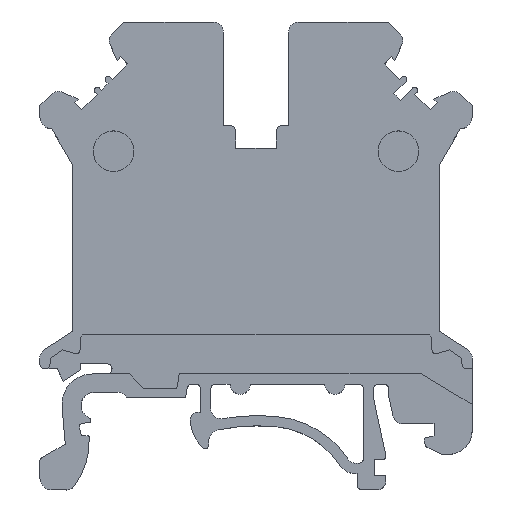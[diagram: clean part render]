
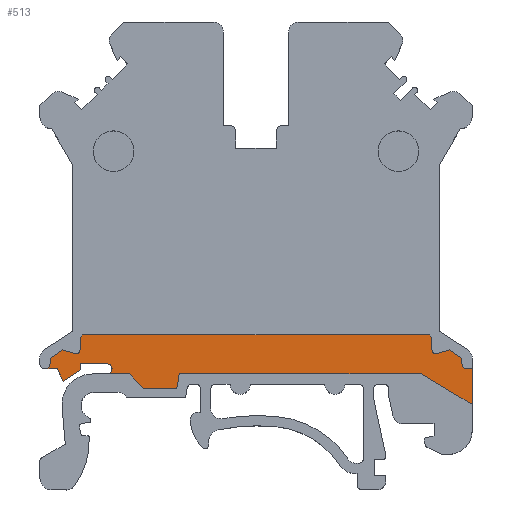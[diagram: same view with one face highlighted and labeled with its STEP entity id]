
A CAD part, top view. The second image highlights one B-rep face of the part: STEP entity #513.
In plain terms, the highlighted planar face has unit normal (0, 0, 1).
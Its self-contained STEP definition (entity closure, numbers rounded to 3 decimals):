
#216=CIRCLE('',#4229,0.5);
#318=CIRCLE('',#4349,0.5);
#323=CIRCLE('',#4498,0.4);
#324=CIRCLE('',#4505,0.4);
#325=CIRCLE('',#4510,0.5);
#513=ADVANCED_FACE('',(#852),#656,.T.);
#656=PLANE('',#4518);
#852=FACE_OUTER_BOUND('',#1068,.T.);
#1068=EDGE_LOOP('',(#2144,#2145,#2146,#2147,#2148,#2149,#2150,#2151,#2152,
#2153,#2154,#2155,#2156,#2157,#2158,#2159,#2160,#2161,#2162,#2163,#2164,
#2165,#2166,#2167,#2168,#2169,#2170,#2171,#2172));
#2144=ORIENTED_EDGE('',*,*,#2684,.F.);
#2145=ORIENTED_EDGE('',*,*,#2778,.F.);
#2146=ORIENTED_EDGE('',*,*,#3060,.F.);
#2147=ORIENTED_EDGE('',*,*,#3239,.T.);
#2148=ORIENTED_EDGE('',*,*,#3237,.T.);
#2149=ORIENTED_EDGE('',*,*,#3235,.T.);
#2150=ORIENTED_EDGE('',*,*,#3233,.T.);
#2151=ORIENTED_EDGE('',*,*,#3231,.T.);
#2152=ORIENTED_EDGE('',*,*,#2787,.F.);
#2153=ORIENTED_EDGE('',*,*,#3230,.T.);
#2154=ORIENTED_EDGE('',*,*,#3228,.T.);
#2155=ORIENTED_EDGE('',*,*,#3226,.T.);
#2156=ORIENTED_EDGE('',*,*,#3224,.T.);
#2157=ORIENTED_EDGE('',*,*,#3222,.T.);
#2158=ORIENTED_EDGE('',*,*,#3220,.T.);
#2159=ORIENTED_EDGE('',*,*,#3218,.T.);
#2160=ORIENTED_EDGE('',*,*,#3216,.T.);
#2161=ORIENTED_EDGE('',*,*,#3214,.T.);
#2162=ORIENTED_EDGE('',*,*,#3212,.T.);
#2163=ORIENTED_EDGE('',*,*,#3210,.T.);
#2164=ORIENTED_EDGE('',*,*,#3208,.T.);
#2165=ORIENTED_EDGE('',*,*,#3206,.T.);
#2166=ORIENTED_EDGE('',*,*,#3204,.T.);
#2167=ORIENTED_EDGE('',*,*,#3202,.T.);
#2168=ORIENTED_EDGE('',*,*,#3065,.F.);
#2169=ORIENTED_EDGE('',*,*,#2780,.F.);
#2170=ORIENTED_EDGE('',*,*,#2693,.F.);
#2171=ORIENTED_EDGE('',*,*,#2690,.F.);
#2172=ORIENTED_EDGE('',*,*,#2687,.F.);
#2284=VERTEX_POINT('',#5692);
#2285=VERTEX_POINT('',#5694);
#2287=VERTEX_POINT('',#5700);
#2289=VERTEX_POINT('',#5706);
#2291=VERTEX_POINT('',#5712);
#2374=VERTEX_POINT('',#5881);
#2376=VERTEX_POINT('',#5887);
#2381=VERTEX_POINT('',#5899);
#2382=VERTEX_POINT('',#5901);
#2638=VERTEX_POINT('',#6444);
#2641=VERTEX_POINT('',#6454);
#2646=VERTEX_POINT('',#6737);
#2647=VERTEX_POINT('',#6741);
#2648=VERTEX_POINT('',#6745);
#2649=VERTEX_POINT('',#6749);
#2650=VERTEX_POINT('',#6753);
#2651=VERTEX_POINT('',#6757);
#2652=VERTEX_POINT('',#6761);
#2653=VERTEX_POINT('',#6765);
#2654=VERTEX_POINT('',#6769);
#2655=VERTEX_POINT('',#6773);
#2656=VERTEX_POINT('',#6777);
#2657=VERTEX_POINT('',#6781);
#2658=VERTEX_POINT('',#6785);
#2659=VERTEX_POINT('',#6789);
#2660=VERTEX_POINT('',#6795);
#2661=VERTEX_POINT('',#6799);
#2662=VERTEX_POINT('',#6803);
#2663=VERTEX_POINT('',#6807);
#2684=EDGE_CURVE('',#2284,#2285,#3280,.T.);
#2687=EDGE_CURVE('',#2285,#2287,#3283,.T.);
#2690=EDGE_CURVE('',#2287,#2289,#3286,.T.);
#2693=EDGE_CURVE('',#2289,#2291,#3289,.T.);
#2778=EDGE_CURVE('',#2374,#2284,#216,.T.);
#2780=EDGE_CURVE('',#2291,#2376,#3354,.T.);
#2787=EDGE_CURVE('',#2381,#2382,#3361,.T.);
#3060=EDGE_CURVE('',#2638,#2374,#3534,.T.);
#3065=EDGE_CURVE('',#2376,#2641,#318,.T.);
#3202=EDGE_CURVE('',#2646,#2641,#3670,.T.);
#3204=EDGE_CURVE('',#2647,#2646,#3672,.T.);
#3206=EDGE_CURVE('',#2648,#2647,#3674,.T.);
#3208=EDGE_CURVE('',#2649,#2648,#323,.T.);
#3210=EDGE_CURVE('',#2650,#2649,#3677,.T.);
#3212=EDGE_CURVE('',#2651,#2650,#3679,.T.);
#3214=EDGE_CURVE('',#2652,#2651,#3681,.T.);
#3216=EDGE_CURVE('',#2653,#2652,#3683,.T.);
#3218=EDGE_CURVE('',#2654,#2653,#3685,.T.);
#3220=EDGE_CURVE('',#2655,#2654,#324,.T.);
#3222=EDGE_CURVE('',#2656,#2655,#3688,.T.);
#3224=EDGE_CURVE('',#2657,#2656,#3690,.T.);
#3226=EDGE_CURVE('',#2658,#2657,#3692,.T.);
#3228=EDGE_CURVE('',#2659,#2658,#325,.T.);
#3230=EDGE_CURVE('',#2381,#2659,#3695,.T.);
#3231=EDGE_CURVE('',#2660,#2382,#3696,.T.);
#3233=EDGE_CURVE('',#2661,#2660,#3698,.T.);
#3235=EDGE_CURVE('',#2662,#2661,#3700,.T.);
#3237=EDGE_CURVE('',#2663,#2662,#3702,.T.);
#3239=EDGE_CURVE('',#2638,#2663,#3704,.T.);
#3280=LINE('',#5693,#3742);
#3283=LINE('',#5699,#3745);
#3286=LINE('',#5705,#3748);
#3289=LINE('',#5711,#3751);
#3354=LINE('',#5886,#3816);
#3361=LINE('',#5900,#3823);
#3534=LINE('',#6445,#3996);
#3670=LINE('',#6736,#4132);
#3672=LINE('',#6740,#4134);
#3674=LINE('',#6744,#4136);
#3677=LINE('',#6752,#4139);
#3679=LINE('',#6756,#4141);
#3681=LINE('',#6760,#4143);
#3683=LINE('',#6764,#4145);
#3685=LINE('',#6768,#4147);
#3688=LINE('',#6776,#4150);
#3690=LINE('',#6780,#4152);
#3692=LINE('',#6784,#4154);
#3695=LINE('',#6792,#4157);
#3696=LINE('',#6794,#4158);
#3698=LINE('',#6798,#4160);
#3700=LINE('',#6802,#4162);
#3702=LINE('',#6806,#4164);
#3704=LINE('',#6810,#4166);
#3742=VECTOR('',#4547,1.);
#3745=VECTOR('',#4552,1.);
#3748=VECTOR('',#4557,1.);
#3751=VECTOR('',#4562,1.);
#3816=VECTOR('',#4677,1.);
#3823=VECTOR('',#4686,1.);
#3996=VECTOR('',#5089,1.);
#4132=VECTOR('',#5521,1.);
#4134=VECTOR('',#5525,1.);
#4136=VECTOR('',#5529,1.);
#4139=VECTOR('',#5538,1.);
#4141=VECTOR('',#5542,1.);
#4143=VECTOR('',#5546,1.);
#4145=VECTOR('',#5550,1.);
#4147=VECTOR('',#5554,1.);
#4150=VECTOR('',#5563,1.);
#4152=VECTOR('',#5567,1.);
#4154=VECTOR('',#5571,1.);
#4157=VECTOR('',#5580,1.);
#4158=VECTOR('',#5583,1.);
#4160=VECTOR('',#5587,1.);
#4162=VECTOR('',#5591,1.);
#4164=VECTOR('',#5595,1.);
#4166=VECTOR('',#5599,1.);
#4229=AXIS2_PLACEMENT_3D('',#5882,#4672,#4673);
#4349=AXIS2_PLACEMENT_3D('',#6453,#5097,#5098);
#4498=AXIS2_PLACEMENT_3D('',#6748,#5533,#5534);
#4505=AXIS2_PLACEMENT_3D('',#6772,#5558,#5559);
#4510=AXIS2_PLACEMENT_3D('',#6788,#5575,#5576);
#4518=AXIS2_PLACEMENT_3D('',#6812,#5602,#5603);
#4547=DIRECTION('',(-1.,0.,0.));
#4552=DIRECTION('',(0.,-1.,0.));
#4557=DIRECTION('',(-0.84,-0.543,0.));
#4562=DIRECTION('',(-0.447,0.894,0.));
#4672=DIRECTION('',(0.,0.,1.));
#4673=DIRECTION('',(1.,0.,0.));
#4677=DIRECTION('',(-1.,0.,0.));
#4686=DIRECTION('',(0.,-1.,0.));
#5089=DIRECTION('',(-1.,0.,0.));
#5097=DIRECTION('',(0.,0.,1.));
#5098=DIRECTION('',(1.,0.,0.));
#5521=DIRECTION('',(0.,-1.,0.));
#5525=DIRECTION('',(-0.84,-0.543,0.));
#5529=DIRECTION('',(-0.96,0.281,0.));
#5533=DIRECTION('',(0.,0.,-1.));
#5534=DIRECTION('',(1.,0.,0.));
#5538=DIRECTION('',(0.,-1.,0.));
#5542=DIRECTION('',(-0.768,-0.64,0.));
#5546=DIRECTION('',(-1.,0.,0.));
#5550=DIRECTION('',(-0.768,0.64,0.));
#5554=DIRECTION('',(0.,1.,0.));
#5558=DIRECTION('',(0.,0.,-1.));
#5559=DIRECTION('',(1.,0.,0.));
#5563=DIRECTION('',(-0.96,-0.281,0.));
#5567=DIRECTION('',(-0.84,0.543,0.));
#5571=DIRECTION('',(0.,1.,0.));
#5575=DIRECTION('',(0.,0.,-1.));
#5576=DIRECTION('',(1.,0.,0.));
#5580=DIRECTION('',(-1.,0.,0.));
#5583=DIRECTION('',(0.857,-0.514,0.));
#5587=DIRECTION('',(1.,0.,0.));
#5591=DIRECTION('',(0.174,0.985,0.));
#5595=DIRECTION('',(1.,0.,0.));
#5599=DIRECTION('',(0.695,-0.719,0.));
#5602=DIRECTION('',(0.,0.,1.));
#5603=DIRECTION('',(1.,0.,0.));
#5692=CARTESIAN_POINT('',(5.47,-26.48,3.8));
#5693=CARTESIAN_POINT('',(5.47,-26.48,3.8));
#5694=CARTESIAN_POINT('',(2.87,-26.48,3.8));
#5699=CARTESIAN_POINT('',(2.87,-26.48,3.8));
#5700=CARTESIAN_POINT('',(2.87,-27.08,3.8));
#5705=CARTESIAN_POINT('',(2.87,-27.08,3.8));
#5706=CARTESIAN_POINT('',(1.17,-28.18,3.8));
#5711=CARTESIAN_POINT('',(1.17,-28.18,3.8));
#5712=CARTESIAN_POINT('',(0.57,-26.98,3.8));
#5881=CARTESIAN_POINT('',(5.47,-27.48,3.8));
#5882=CARTESIAN_POINT('',(5.47,-26.98,3.8));
#5886=CARTESIAN_POINT('',(0.57,-26.98,3.8));
#5887=CARTESIAN_POINT('',(-0.63,-26.98,3.8));
#5899=CARTESIAN_POINT('',(41.37,-26.98,3.8));
#5900=CARTESIAN_POINT('',(41.37,-26.98,3.8));
#5901=CARTESIAN_POINT('',(41.37,-30.48,3.8));
#6444=CARTESIAN_POINT('',(7.681,-27.48,3.8));
#6445=CARTESIAN_POINT('',(7.681,-27.48,3.8));
#6453=CARTESIAN_POINT('',(-0.63,-26.48,3.8));
#6454=CARTESIAN_POINT('',(-0.13,-26.48,3.8));
#6736=CARTESIAN_POINT('',(-0.13,-26.48,3.8));
#6737=CARTESIAN_POINT('',(-0.13,-25.924,3.8));
#6740=CARTESIAN_POINT('',(-0.13,-25.924,3.8));
#6741=CARTESIAN_POINT('',(1.12,-25.117,3.8));
#6744=CARTESIAN_POINT('',(1.12,-25.117,3.8));
#6745=CARTESIAN_POINT('',(2.308,-25.464,3.8));
#6748=CARTESIAN_POINT('',(2.42,-25.08,3.8));
#6749=CARTESIAN_POINT('',(2.82,-25.08,3.8));
#6752=CARTESIAN_POINT('',(2.82,-25.08,3.8));
#6753=CARTESIAN_POINT('',(2.82,-23.868,3.8));
#6756=CARTESIAN_POINT('',(2.82,-23.868,3.8));
#6757=CARTESIAN_POINT('',(3.087,-23.646,3.8));
#6760=CARTESIAN_POINT('',(3.087,-23.646,3.8));
#6761=CARTESIAN_POINT('',(37.153,-23.646,3.8));
#6764=CARTESIAN_POINT('',(37.153,-23.646,3.8));
#6765=CARTESIAN_POINT('',(37.42,-23.868,3.8));
#6768=CARTESIAN_POINT('',(37.42,-23.868,3.8));
#6769=CARTESIAN_POINT('',(37.42,-25.08,3.8));
#6772=CARTESIAN_POINT('',(37.82,-25.08,3.8));
#6773=CARTESIAN_POINT('',(37.932,-25.464,3.8));
#6776=CARTESIAN_POINT('',(37.932,-25.464,3.8));
#6777=CARTESIAN_POINT('',(39.12,-25.117,3.8));
#6780=CARTESIAN_POINT('',(39.12,-25.117,3.8));
#6781=CARTESIAN_POINT('',(40.37,-25.924,3.8));
#6784=CARTESIAN_POINT('',(40.37,-25.924,3.8));
#6785=CARTESIAN_POINT('',(40.37,-26.48,3.8));
#6788=CARTESIAN_POINT('',(40.87,-26.48,3.8));
#6789=CARTESIAN_POINT('',(40.87,-26.98,3.8));
#6792=CARTESIAN_POINT('',(40.87,-26.98,3.8));
#6794=CARTESIAN_POINT('',(41.37,-30.48,3.8));
#6795=CARTESIAN_POINT('',(36.37,-27.48,3.8));
#6798=CARTESIAN_POINT('',(36.37,-27.48,3.8));
#6799=CARTESIAN_POINT('',(12.581,-27.48,3.8));
#6802=CARTESIAN_POINT('',(12.581,-27.48,3.8));
#6803=CARTESIAN_POINT('',(12.334,-28.88,3.8));
#6806=CARTESIAN_POINT('',(12.334,-28.88,3.8));
#6807=CARTESIAN_POINT('',(9.034,-28.88,3.8));
#6810=CARTESIAN_POINT('',(9.034,-28.88,3.8));
#6812=CARTESIAN_POINT('',(-0.63,-26.48,3.8));
